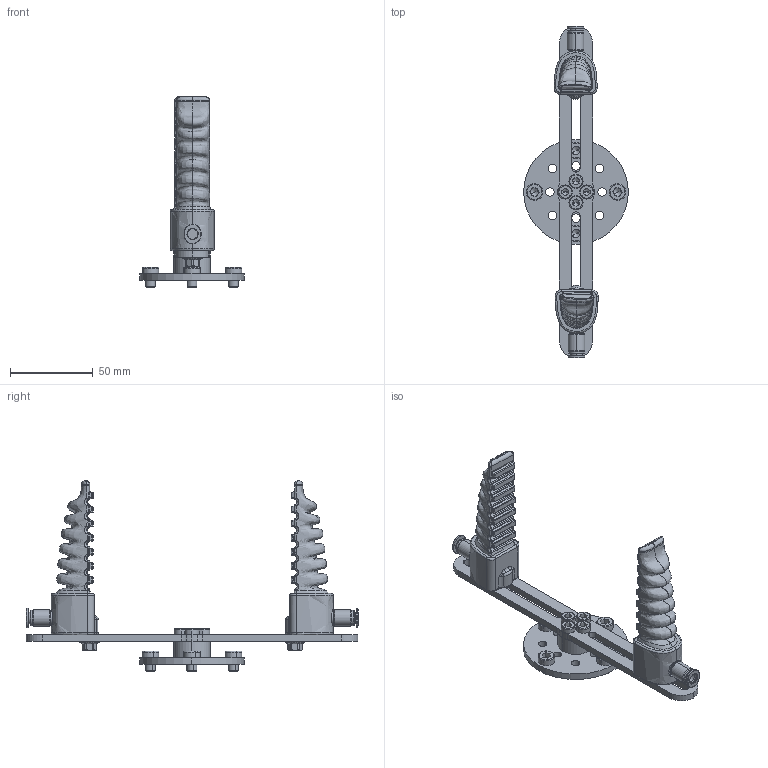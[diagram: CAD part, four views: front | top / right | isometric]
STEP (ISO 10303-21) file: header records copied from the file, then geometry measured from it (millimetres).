
FILE_DESCRIPTION (( 'STEP AP214' ), '1' );
FILE_NAME ('SG.AN.F1.S60.P2.A185.R50.STEP', '2022-02-24T10:17:17', ( '' ), ( '' ), 'SwSTEP 2.0', 'SolidWorks 2019', '' );
FILE_SCHEMA (( 'AUTOMOTIVE_DESIGN' ));
Length unit declared in the file: millimetre
Products named in the file (21): DIN 7984 I-6Kt Zyl-Schr. A2 M 5x8; SG.AN.F1.S60.P2.A185.R50; SG_FI.60; Finger_lang - gefuellt; DIN 7984 I-6Kt Zyl-Schr. A2 M 6x8; SG.FI.SD; iqsmm56i_10795; DIN_6921_Schraube M5x12 Flansch; SG.AN.F1; KVT 6238 M5-316; o-Ring_3x1; SG.AN.R50; SG.AN.P2.A185; SG.A.IL.F1.02.S60; SG.FI..IF; M3x20-ISO_7380-2
Assembly tree (37 placements, depth 4):
  SG.AN.F1.S60.P2.A185.R50
    SG.AN.R50
      SG.AN.R50
      DIN 7984 I-6Kt Zyl-Schr. A2 M 6x8  x4
    DIN 7984 I-6Kt Zyl-Schr. A2 M 5x8  x4
    SG.AN.P2.A185
    SG.A.IL.F1.02.S60
      SG_FI.60
        Finger_lang - gefuellt
        SG.FI..IF
        SG.FI.SD
      DIN_6921_Schraube M5x12 Flansch
      SG.AN.F1
        SG.AN.F1
        KVT 6238 M5-316  x2
        M3x20-ISO_7380-2
        o-Ring_3x1
        iqsmm56i_10795
    SG.A.IL.F1.02.S60
      SG_FI.60
        Finger_lang - gefuellt
        SG.FI..IF
        SG.FI.SD
      DIN_6921_Schraube M5x12 Flansch
      SG.AN.F1
        SG.AN.F1
        KVT 6238 M5-316  x2
        M3x20-ISO_7380-2
        o-Ring_3x1
        iqsmm56i_10795
Bounding box: 63 x 200.05 x 114.65 mm (x, y, z)
Volume: 99151.5 mm3; surface area: 58670 mm2
Topology: 32 solids, 32 shells, 2216 faces, 5287 edges, 3106 vertices
Faces by surface type: bspline 832, cylinder 475, plane 441, sphere 180, cone 162, torus 126
Entity records: 79442 total; most frequent: CARTESIAN_POINT 56267, ORIENTED_EDGE 5064, DIRECTION 4125, EDGE_CURVE 2532, AXIS2_PLACEMENT_3D 1757, VERTEX_POINT 1524, EDGE_LOOP 1166, ADVANCED_FACE 1072
